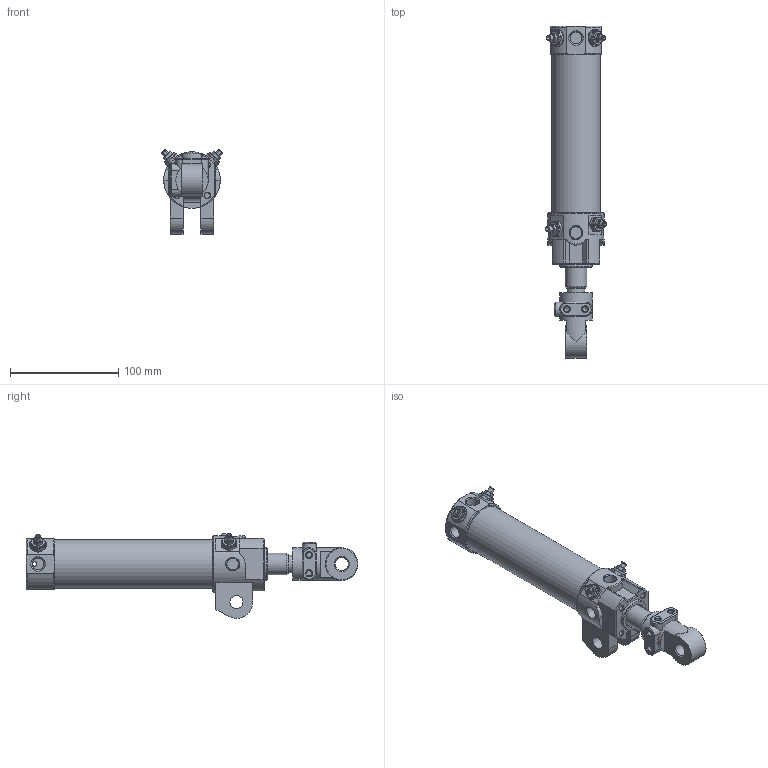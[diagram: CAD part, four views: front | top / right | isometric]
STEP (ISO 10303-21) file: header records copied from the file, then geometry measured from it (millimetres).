
FILE_DESCRIPTION((''),'2;1');
FILE_NAME('I:\3D電子目錄\氣缸\DCK\DCK\DCK-1A-40x100-I.stp','2008-02-26T10:51:49',('Administrator'),(''),'Autodesk Inventor 11','Autodesk Inventor 11','');
FILE_SCHEMA(('AUTOMOTIVE_DESIGN { 1 0 10303 214 1 1 1 1 }'));
Length unit declared in the file: millimetre
Products named in the file (6): DCK-1A-40-I; 緩衝針; 緩衝針-1; 緩衝針-201; 緩衝針-3
Assembly tree (8 placements, depth 3):
  DCK-1A-40-I
    DCK-1A-40-I
    緩衝針  x4
      緩衝針-1
      緩衝針-201
      緩衝針-3
Bounding box: 56.06 x 306 x 78.02 mm (x, y, z)
Volume: 236487.6 mm3; surface area: 103142.8 mm2
Topology: 16 solids, 16 shells, 688 faces, 1580 edges, 982 vertices
Faces by surface type: plane 234, cylinder 209, cone 144, bspline 64, torus 35, sphere 2
Full cylindrical faces by diameter (mm): 2 x1, 3 x3, 3.8 x2, 4 x6, 4.6 x4, 5 x8, 5.1 x4, 5.2 x12, 5.5 x4, 7 x1, 7.25 x1, 7.9 x4, 8 x2, 8.3 x1, 10 x2, 12 x3, 12.8 x4, 16 x3, 20 x1, 21 x1, 22 x3, 23 x1, 24.7 x1, 26 x1, 28 x1, 29 x1, 30 x3, 33 x1, 40 x1, 42 x2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
Entity records: 23140 total; most frequent: CARTESIAN_POINT 13908, DIRECTION 1810, ORIENTED_EDGE 1772, EDGE_CURVE 886, AXIS2_PLACEMENT_3D 781, EDGE_LOOP 625, VERTEX_POINT 617, FACE_OUTER_BOUND 437
